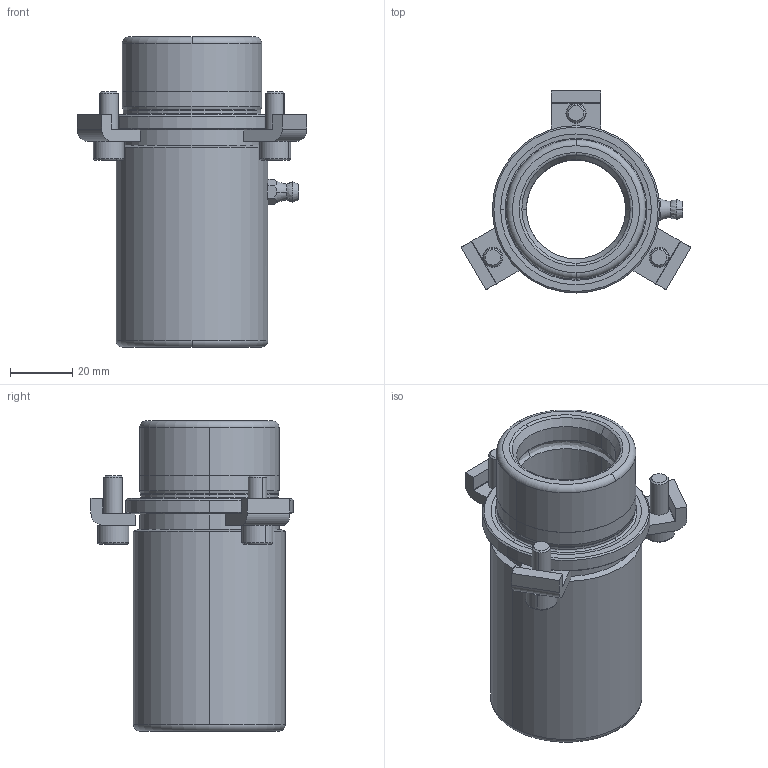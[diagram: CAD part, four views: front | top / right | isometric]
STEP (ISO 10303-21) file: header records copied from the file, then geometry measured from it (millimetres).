
FILE_DESCRIPTION((''),'2;1');
FILE_NAME('B10_032_075.stp','2008-11-06T08:47:25',(''),(''),'Mechanical Desktop 2009','Mechanical Desktop 2009',', , ');
FILE_SCHEMA(('CONFIG_CONTROL_DESIGN'));
Length unit declared in the file: millimetre
Products named in the file (2): Product; blmdl1
Assembly tree (1 placements, depth 2):
  Product
    blmdl1
Bounding box: 74.11 x 65.2 x 100 mm (x, y, z)
Volume: 105237.8 mm3; surface area: 33348.5 mm2
Topology: 8 solids, 8 shells, 170 faces, 445 edges, 292 vertices
Faces by surface type: plane 68, cylinder 48, cone 22, bspline 16, torus 16
Entity records: 6504 total; most frequent: CARTESIAN_POINT 2130, DIRECTION 939, ORIENTED_EDGE 882, EDGE_CURVE 441, AXIS2_PLACEMENT_3D 371, VERTEX_POINT 290, CIRCLE 215, VECTOR 197
